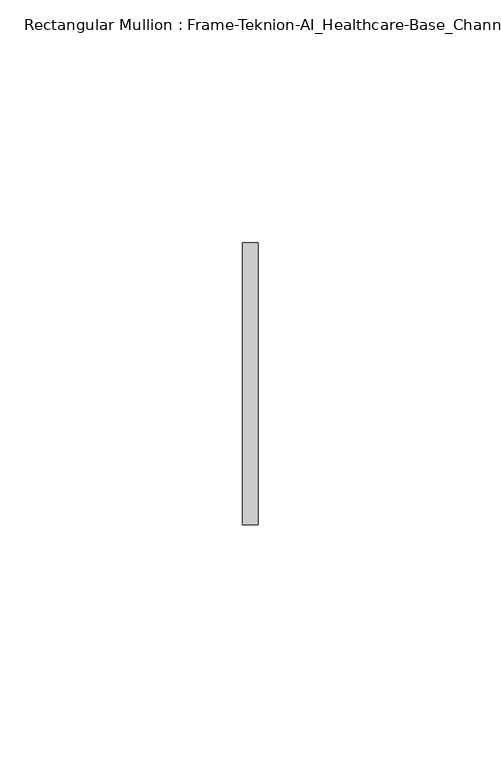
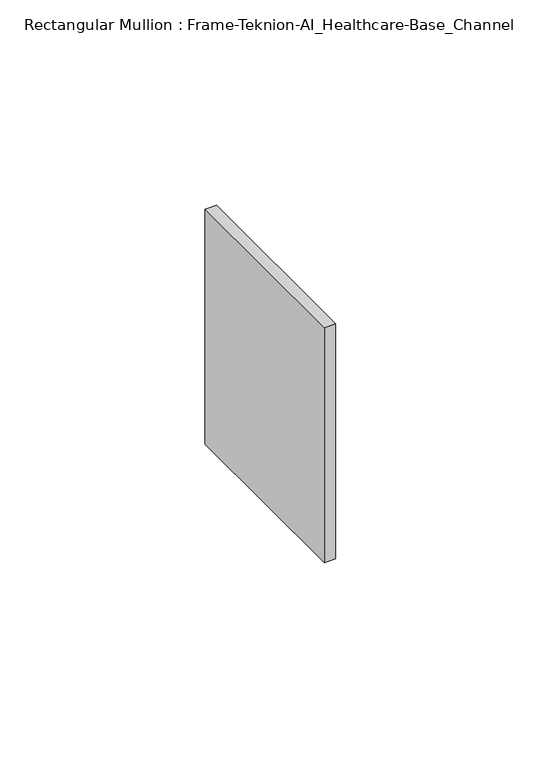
"""IFC4 building model written with IfcOpenShell, lengths in millimetres: member geometry, Rectangular Mullion : Frame-Teknion-AI_Healthcare-Base_Channel."""

from ifc_helpers import new_model, si_unit, frame, origin, place, context, project, spatial, polyline, outline, extrude, source, transform, mapped, element, save


def rectangular_mullion_frame_teknion_ai_healthcare_base_channel_f50aac76(model_context):
    return source(origin(), model_context, "Body", "SweptSolid", [
        extrude(outline(polyline([(0.0, 29.0214844), (0.0, -29.0214844), (-3.175, -29.0214844), (-3.175, 29.0214844), (0.0, 29.0214844)])), frame((0.0, 0.0, -69.85), z_axis=(0.0, 0.0, 1.0), x_axis=(1.0, 0.0, 0.0)), (0.0, 0.0, 1.0), 69.85),
    ])


if __name__ == "__main__":
    model = new_model("IFC4")
    model_context = context("Model", 3, world=origin())
    ifc_project = project(units=[si_unit("LENGTHUNIT", "METRE", prefix="MILLI")], contexts=[model_context])
    site = spatial("IfcSite", under=ifc_project)
    building = spatial("IfcBuilding", under=site)
    placement = place(None, origin())
    rectangular_mullion_frame_teknion_ai_healthcare_base_channel_shape = rectangular_mullion_frame_teknion_ai_healthcare_base_channel_f50aac76(model_context)
    element("IfcMember", 1, ObjectType="Rectangular Mullion : Frame-Teknion-AI_Healthcare-Base_Channel", at=placement, inside=building, context=model_context, shape_type="MappedRepresentation", body=[
        mapped(rectangular_mullion_frame_teknion_ai_healthcare_base_channel_shape, transform((0.0, 0.0, 0.0), x_axis=(1.0, 0.0, 0.0), y_axis=(0.0, 1.0, 0.0), z_axis=(0.0, 0.0, 1.0))),
    ])
    save(model, "model.ifc")
